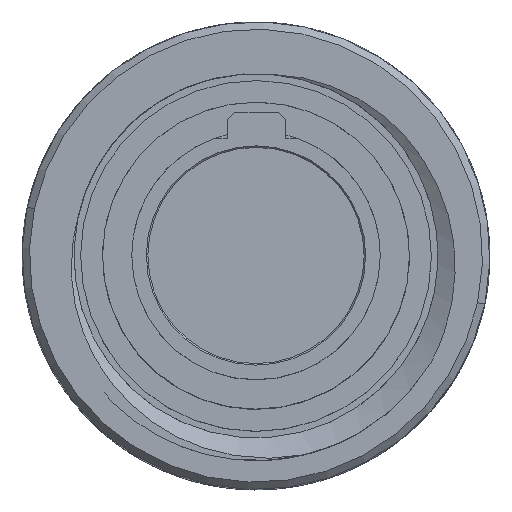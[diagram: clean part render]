
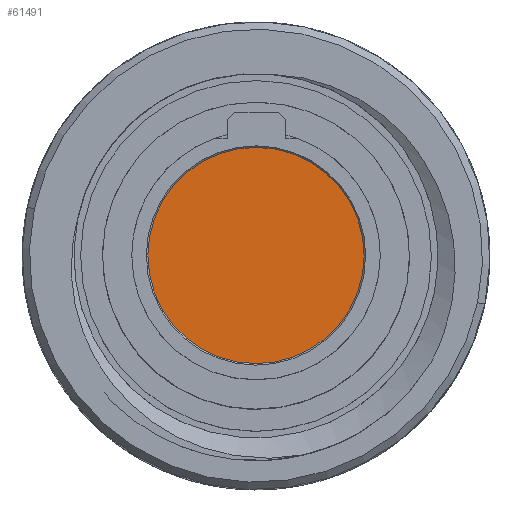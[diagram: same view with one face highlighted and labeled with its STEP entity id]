
A CAD part, top view. The second image highlights one B-rep face of the part: STEP entity #61491.
In plain terms, the highlighted planar face has unit normal (0, 0, 1) as drawn and (1, 0, 0) by its records, which use the part's own axes.
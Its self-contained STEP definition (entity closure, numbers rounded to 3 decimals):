
#3303 = CARTESIAN_POINT ( 'NONE',  ( 25.75, -3.5, 0. ) ) ;
#7548 = CIRCLE ( 'NONE', #78167, 3.7 ) ;
#10841 = CIRCLE ( 'NONE', #48928, 3.7 ) ;
#19183 = VERTEX_POINT ( 'NONE', #69445 ) ;
#24035 = DIRECTION ( 'NONE',  ( 1., 0., 0. ) ) ;
#25764 = CARTESIAN_POINT ( 'NONE',  ( 25.75, -3.5, 0. ) ) ;
#26965 = EDGE_CURVE ( 'NONE', #19183, #81565, #7548, .T. ) ;
#31835 = CARTESIAN_POINT ( 'NONE',  ( 25.75, -3.5, 3.7 ) ) ;
#40894 = CARTESIAN_POINT ( 'NONE',  ( 25.75, -3.5, 0. ) ) ;
#44378 = AXIS2_PLACEMENT_3D ( 'NONE', #40894, #107987, #63767 ) ;
#48928 = AXIS2_PLACEMENT_3D ( 'NONE', #3303, #83186, #106238 ) ;
#49962 = ORIENTED_EDGE ( 'NONE', *, *, #26965, .T. ) ;
#58584 = FACE_OUTER_BOUND ( 'NONE', #69315, .T. ) ;
#61491 = ADVANCED_FACE ( 'NONE', ( #58584 ), #79651, .T. ) ;
#63767 = DIRECTION ( 'NONE',  ( 0., 0., -1. ) ) ;
#69315 = EDGE_LOOP ( 'NONE', ( #49962, #94163 ) ) ;
#69445 = CARTESIAN_POINT ( 'NONE',  ( 25.75, -3.5, -3.7 ) ) ;
#78167 = AXIS2_PLACEMENT_3D ( 'NONE', #25764, #24035, #80638 ) ;
#79651 = PLANE ( 'NONE',  #44378 ) ;
#80638 = DIRECTION ( 'NONE',  ( 0., 0., -1. ) ) ;
#81565 = VERTEX_POINT ( 'NONE', #31835 ) ;
#83186 = DIRECTION ( 'NONE',  ( 1., 0., 0. ) ) ;
#94163 = ORIENTED_EDGE ( 'NONE', *, *, #109553, .T. ) ;
#106238 = DIRECTION ( 'NONE',  ( 0., 0., -1. ) ) ;
#107987 = DIRECTION ( 'NONE',  ( 1., 0., 0. ) ) ;
#109553 = EDGE_CURVE ( 'NONE', #81565, #19183, #10841, .T. ) ;
